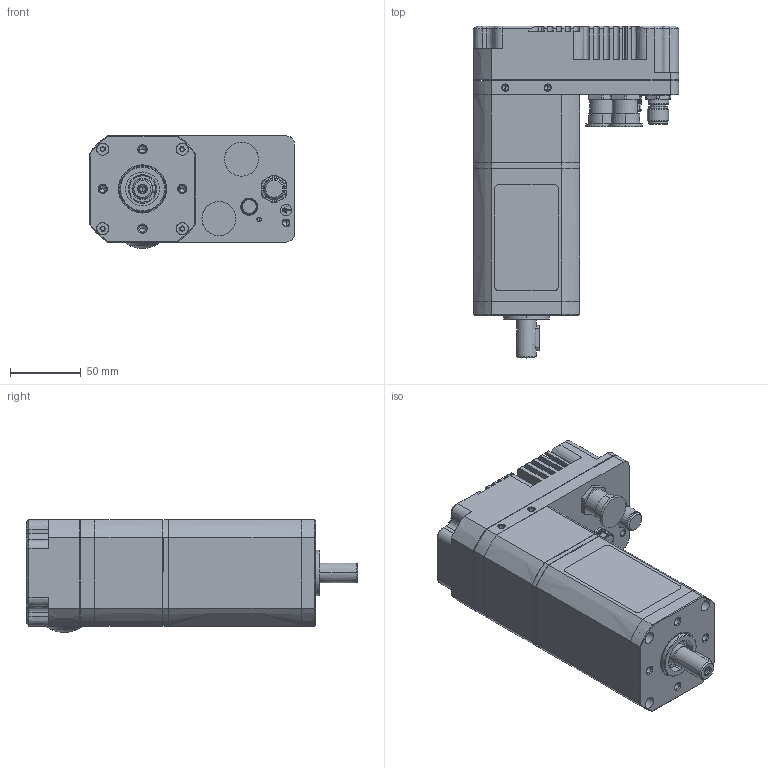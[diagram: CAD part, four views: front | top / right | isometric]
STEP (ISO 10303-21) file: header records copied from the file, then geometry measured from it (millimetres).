
FILE_DESCRIPTION((''),'2;1');
FILE_NAME('80360100','2018-09-17T',('alecma1'),('CROUZET-AUTOMATISMES'),'CREO PARAMETRIC BY PTC INC, 2017170','CREO PARAMETRIC BY PTC INC, 2017170','');
FILE_SCHEMA(('AP203_CONFIGURATION_CONTROLLED_3D_DESIGN_OF_MECHANICAL_PARTS_AND_ASSEMBLIES_MIM_LF { 1 0 10303 403 2 1 2 }'));
Products named in the file (1): 80360100
Bounding box: 145 x 234.6 x 79.7 mm (x, y, z)
Surface area: 129155.1 mm2 (no closed solid volume)
Topology: 0 solids, 0 shells, 745 faces, 3855 edges, 3795 vertices
Faces by surface type: bspline 695, torus 46, sphere 4
Entity records: 74978 total; most frequent: CARTESIAN_POINT 34640, DIRECTION 5848, TRIMMED_CURVE 4882, VECTOR 4041, LINE 4041, DEFINITIONAL_REPRESENTATION 3755, PCURVE 3755, COMPOSITE_CURVE_SEGMENT 3755
